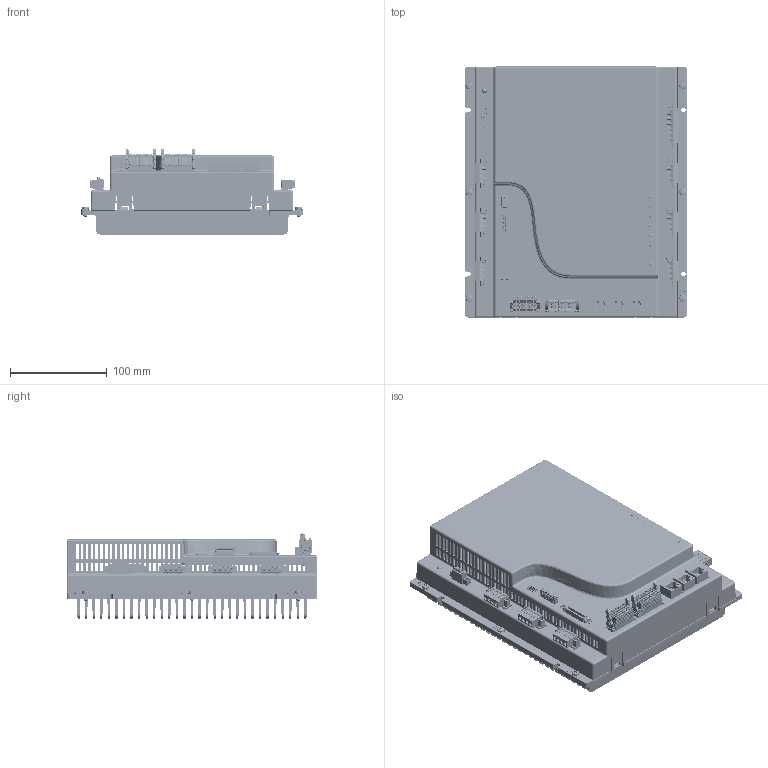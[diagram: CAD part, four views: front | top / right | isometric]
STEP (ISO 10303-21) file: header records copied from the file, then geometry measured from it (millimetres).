
FILE_DESCRIPTION((''),'2;1');
FILE_NAME('SMARTPX_ASM_ASM','2023-06-15T',('wusong22'),(''),'CREO PARAMETRIC BY PTC INC, 2016260','CREO PARAMETRIC BY PTC INC, 2016260','');
FILE_SCHEMA(('CONFIG_CONTROL_DESIGN'));
Products named in the file (28): PCB_POWER_1; 15EDGVM-3_5-04P-14-00A_H__1; 2EDGVM-5_08-04P-14-100A_H__1; 2EDGVM-5_08-07P-14-100A_H__1; LED-CHARGE_1; POWER_ASSY_ASM_1_ASM; PCB_CONTROLLER_1; NET-CONNECTOR_1; 15EDGVHCM-THR-3_5-16P-13-00A_H_; 15EDGVHCM-THR-3_5-14P-13-00A_H_; 403-53026-51_C_STEP_1; 60110365102_1; W-USB-CF-099_TYPE-C_16PIN_SMT_L; CONTROLLER_ASSY_ASM_1_ASM; HSKRSPX0601-00_1; MECRSPX0601-00_1; SPCR00002156-00_1; 15EDGKNM-3_5-04P-14-1000A_H__1; 2EDGKM-5_08-04P-1Y-1000A_H_1; 2EDGKM-5_08-07P-1Y-1000A_H_1; SCRR000000M4-24_1; 15EDGKNHG-3_5-16P-14-00A_H_1; 15EDGKNHG-3_5-14P-14-00A_H__1; LIGRSPX0601-00_1; LIGRSPX0602-00_1; EPT_404-59026-61_1; AIO-IMPROVE_ASM_1_ASM; SMARTPX_ASM_ASM
Assembly tree (48 placements, depth 4):
  SMARTPX_ASM_ASM
    AIO-IMPROVE_ASM_1_ASM
      POWER_ASSY_ASM_1_ASM
        PCB_POWER_1
        15EDGVM-3_5-04P-14-00A_H__1
        2EDGVM-5_08-04P-14-100A_H__1  x6
        2EDGVM-5_08-07P-14-100A_H__1
        LED-CHARGE_1
      CONTROLLER_ASSY_ASM_1_ASM
        PCB_CONTROLLER_1
        NET-CONNECTOR_1  x3
        15EDGVHCM-THR-3_5-16P-13-00A_H_
        15EDGVHCM-THR-3_5-14P-13-00A_H_
        403-53026-51_C_STEP_1
        60110365102_1
        W-USB-CF-099_TYPE-C_16PIN_SMT_L
      HSKRSPX0601-00_1
      MECRSPX0601-00_1
      SPCR00002156-00_1  x5
      15EDGKNM-3_5-04P-14-1000A_H__1
      2EDGKM-5_08-04P-1Y-1000A_H_1  x6
      2EDGKM-5_08-07P-1Y-1000A_H_1
      SCRR000000M4-24_1  x6
      15EDGKNHG-3_5-16P-14-00A_H_1
      15EDGKNHG-3_5-14P-14-00A_H__1
      LIGRSPX0601-00_1
      LIGRSPX0602-00_1
      EPT_404-59026-61_1
Bounding box: 229.99 x 260 x 88.29 mm (x, y, z)
Volume: 1071761.9 mm3; surface area: 809299 mm2
Topology: 45 solids, 98 shells, 35572 faces, 98327 edges, 63146 vertices
Faces by surface type: plane 22329, cylinder 7981, cone 2492, bspline 983, torus 918, extrusion 585, sphere 284
Entity records: 892311 total; most frequent: CARTESIAN_POINT 244696, ORIENTED_EDGE 140310, DIRECTION 125887, EDGE_CURVE 70189, VECTOR 49545, LINE 48960, VERTEX_POINT 44952, AXIS2_PLACEMENT_3D 38171
